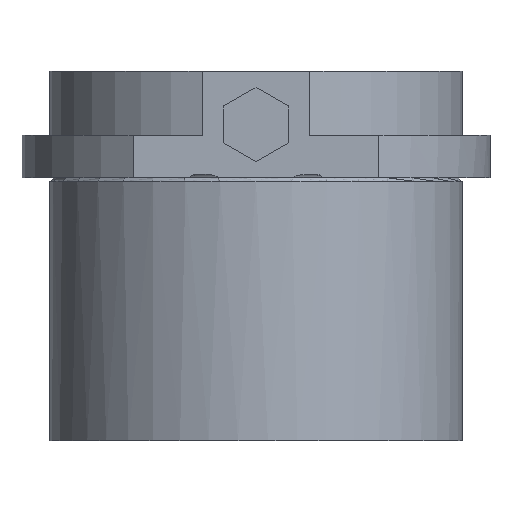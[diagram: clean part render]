
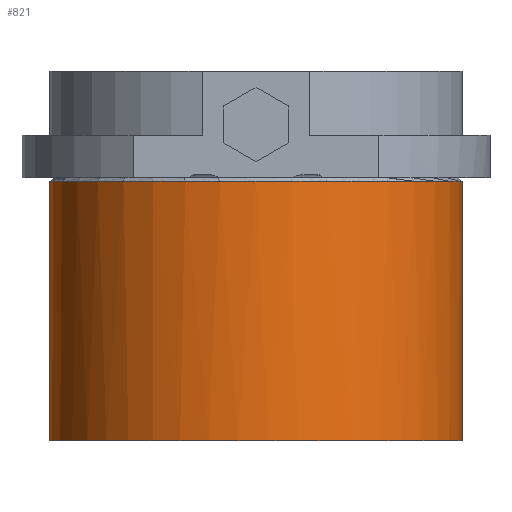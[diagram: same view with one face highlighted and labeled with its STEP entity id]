
A CAD part, front view. The second image highlights one B-rep face of the part: STEP entity #821.
In plain terms, the highlighted cylindrical face has radius 29 mm (diameter 58 mm), a partial arc.
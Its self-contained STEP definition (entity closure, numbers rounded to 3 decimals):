
#453=CARTESIAN_POINT('Control Point',(-29.,0.,-37.)) ;
#454=CARTESIAN_POINT('Control Point',(-29.,-2.638,-37.)) ;
#455=CARTESIAN_POINT('Control Point',(-28.7,-5.276,-37.)) ;
#456=CARTESIAN_POINT('Control Point',(-28.1,-7.869,-37.)) ;
#457=CARTESIAN_POINT('Control Point',(-26.321,-12.873,-37.)) ;
#458=CARTESIAN_POINT('Control Point',(-23.464,-17.349,-37.)) ;
#459=CARTESIAN_POINT('Control Point',(-21.786,-19.414,-37.)) ;
#460=CARTESIAN_POINT('Control Point',(-17.989,-23.127,-37.)) ;
#461=CARTESIAN_POINT('Control Point',(-13.456,-25.893,-37.)) ;
#462=CARTESIAN_POINT('Control Point',(-11.041,-27.012,-37.)) ;
#463=CARTESIAN_POINT('Control Point',(-6.,-28.679,-37.)) ;
#464=CARTESIAN_POINT('Control Point',(-0.712,-29.172,-37.)) ;
#465=CARTESIAN_POINT('Control Point',(1.949,-29.116,-37.)) ;
#466=CARTESIAN_POINT('Control Point',(7.21,-28.399,-37.)) ;
#467=CARTESIAN_POINT('Control Point',(12.177,-26.519,-37.)) ;
#468=CARTESIAN_POINT('Control Point',(14.542,-25.299,-37.)) ;
#469=CARTESIAN_POINT('Control Point',(18.954,-22.344,-37.)) ;
#470=CARTESIAN_POINT('Control Point',(22.589,-18.473,-37.)) ;
#471=CARTESIAN_POINT('Control Point',(24.178,-16.338,-37.)) ;
#472=CARTESIAN_POINT('Control Point',(26.719,-11.959,-37.)) ;
#473=CARTESIAN_POINT('Control Point',(28.26,-7.143,-37.)) ;
#474=CARTESIAN_POINT('Control Point',(28.753,-4.784,-37.)) ;
#475=CARTESIAN_POINT('Control Point',(29.,-2.392,-37.)) ;
#476=CARTESIAN_POINT('Control Point',(29.,0.,-37.)) ;
#477=CARTESIAN_POINT('Vertex',(-29.,0.,-37.)) ;
#479=CARTESIAN_POINT('Vertex',(29.,0.,-37.)) ;
#791=CARTESIAN_POINT('Axis2P3D Location',(0.,0.,15.)) ;
#796=CARTESIAN_POINT('Line Origine',(29.,0.,15.)) ;
#800=CARTESIAN_POINT('Vertex',(29.,0.,-0.5)) ;
#803=CARTESIAN_POINT('Axis2P3D Location',(0.,0.,-0.5)) ;
#807=CARTESIAN_POINT('Vertex',(-29.,0.,-0.5)) ;
#810=CARTESIAN_POINT('Line Origine',(-29.,0.,15.)) ;
#792=DIRECTION('Axis2P3D Direction',(0.,0.,-1.)) ;
#793=DIRECTION('Axis2P3D XDirection',(1.,0.,0.)) ;
#797=DIRECTION('Vector Direction',(0.,0.,-1.)) ;
#804=DIRECTION('Axis2P3D Direction',(0.,0.,-1.)) ;
#811=DIRECTION('Vector Direction',(0.,0.,-1.)) ;
#794=AXIS2_PLACEMENT_3D('Cylinder Axis2P3D',#791,#792,#793) ;
#805=AXIS2_PLACEMENT_3D('Circle Axis2P3D',#803,#804,$) ;
#816=ORIENTED_EDGE('',*,*,#802,.T.) ;
#817=ORIENTED_EDGE('',*,*,#809,.F.) ;
#818=ORIENTED_EDGE('',*,*,#814,.T.) ;
#819=ORIENTED_EDGE('',*,*,#481,.T.) ;
#798=VECTOR('Line Direction',#797,1.) ;
#812=VECTOR('Line Direction',#811,1.) ;
#821=ADVANCED_FACE('740-40',(#820),#795,.T.) ;
#452=B_SPLINE_CURVE_WITH_KNOTS('',5,(#453,#454,#455,#456,#457,#458,#459,#460,#461,#462,#463,#464,#465,#466,#467,#468,#469,#470,#471,#472,#473,#474,#475,#476),.UNSPECIFIED.,.F.,.U.,(6,3,3,3,3,3,3,6),(0.,18.655,37.309,55.964,74.618,93.273,111.928,128.843),.UNSPECIFIED.) ;
#806=CIRCLE('generated circle',#805,29.) ;
#795=CYLINDRICAL_SURFACE('generated cylinder',#794,29.) ;
#481=EDGE_CURVE('',#478,#480,#452,.T.) ;
#802=EDGE_CURVE('',#480,#801,#799,.F.) ;
#809=EDGE_CURVE('',#808,#801,#806,.F.) ;
#814=EDGE_CURVE('',#808,#478,#813,.T.) ;
#815=EDGE_LOOP('',(#816,#817,#818,#819)) ;
#820=FACE_OUTER_BOUND('',#815,.T.) ;
#799=LINE('Line',#796,#798) ;
#813=LINE('Line',#810,#812) ;
#478=VERTEX_POINT('',#477) ;
#480=VERTEX_POINT('',#479) ;
#801=VERTEX_POINT('',#800) ;
#808=VERTEX_POINT('',#807) ;
